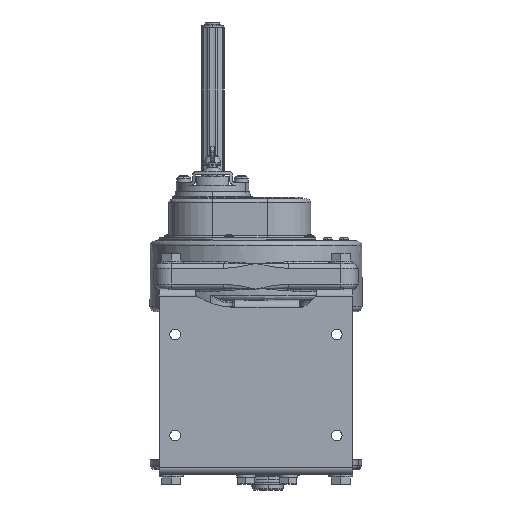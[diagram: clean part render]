
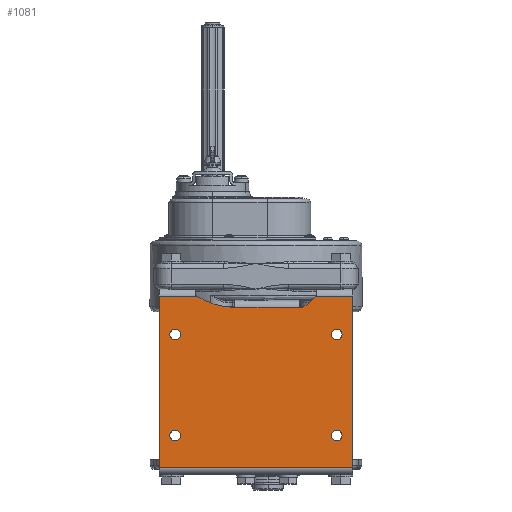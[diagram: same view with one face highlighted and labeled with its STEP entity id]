
A CAD part, front view. The second image highlights one B-rep face of the part: STEP entity #1081.
In plain terms, the highlighted planar face has unit normal (0, -1, 0).
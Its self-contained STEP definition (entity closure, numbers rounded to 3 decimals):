
#1081=ADVANCED_FACE('',(#12439,#12440,#12441,#12442,#12443),#12438,.T.);
#12438=PLANE('',#37628);
#12439=FACE_OUTER_BOUND('',#37629,.T.);
#12440=FACE_BOUND('',#37630,.T.);
#12441=FACE_BOUND('',#37631,.T.);
#12442=FACE_BOUND('',#37632,.T.);
#12443=FACE_BOUND('',#37633,.T.);
#37625=CARTESIAN_POINT('',(11.,-36.383,-212.1));
#37626=DIRECTION('',(0.,-1.,0.));
#37627=DIRECTION('',(0.,0.,1.));
#37628=AXIS2_PLACEMENT_3D('',#37625,#37626,#37627);
#37629=EDGE_LOOP('',(#53646,#53647,#53648,#53649,#53650,#53651,#53652,#53653,#53654,#53655));
#37630=EDGE_LOOP('',(#53656,#53657));
#37631=EDGE_LOOP('',(#53658,#53659));
#37632=EDGE_LOOP('',(#53660,#53661));
#37633=EDGE_LOOP('',(#53662,#53663));
#53646=ORIENTED_EDGE('',*,*,#62278,.T.);
#53647=ORIENTED_EDGE('',*,*,#62282,.T.);
#53648=ORIENTED_EDGE('',*,*,#65119,.T.);
#53649=ORIENTED_EDGE('',*,*,#62268,.T.);
#53650=ORIENTED_EDGE('',*,*,#65120,.T.);
#53651=ORIENTED_EDGE('',*,*,#65121,.T.);
#53652=ORIENTED_EDGE('',*,*,#65117,.T.);
#53653=ORIENTED_EDGE('',*,*,#65101,.F.);
#53654=ORIENTED_EDGE('',*,*,#65113,.F.);
#53655=ORIENTED_EDGE('',*,*,#64233,.T.);
#53656=ORIENTED_EDGE('',*,*,#65122,.F.);
#53657=ORIENTED_EDGE('',*,*,#65123,.F.);
#53658=ORIENTED_EDGE('',*,*,#65124,.F.);
#53659=ORIENTED_EDGE('',*,*,#65125,.F.);
#53660=ORIENTED_EDGE('',*,*,#65126,.F.);
#53661=ORIENTED_EDGE('',*,*,#65127,.F.);
#53662=ORIENTED_EDGE('',*,*,#65128,.F.);
#53663=ORIENTED_EDGE('',*,*,#65129,.F.);
#62268=EDGE_CURVE('',#70349,#70383,#70390,.T.);
#62278=EDGE_CURVE('',#70460,#70453,#70461,.T.);
#62282=EDGE_CURVE('',#70453,#70481,#70488,.T.);
#64233=EDGE_CURVE('',#83603,#70460,#83604,.T.);
#65101=EDGE_CURVE('',#89368,#89375,#89376,.T.);
#65113=EDGE_CURVE('',#83603,#89368,#89454,.T.);
#65117=EDGE_CURVE('',#89478,#89375,#89479,.T.);
#65119=EDGE_CURVE('',#70481,#70349,#89491,.T.);
#65120=EDGE_CURVE('',#70383,#89497,#89498,.T.);
#65121=EDGE_CURVE('',#89497,#89478,#89504,.T.);
#65122=EDGE_CURVE('',#89510,#89511,#89512,.T.);
#65123=EDGE_CURVE('',#89511,#89510,#89518,.T.);
#65124=EDGE_CURVE('',#89524,#89525,#89526,.T.);
#65125=EDGE_CURVE('',#89525,#89524,#89532,.T.);
#65126=EDGE_CURVE('',#89538,#89539,#89540,.T.);
#65127=EDGE_CURVE('',#89539,#89538,#89546,.T.);
#65128=EDGE_CURVE('',#89552,#89553,#89554,.T.);
#65129=EDGE_CURVE('',#89553,#89552,#89560,.T.);
#70349=VERTEX_POINT('',#113328);
#70383=VERTEX_POINT('',#113362);
#70390=LINE('',#113379,#113380);
#70453=VERTEX_POINT('',#113441);
#70460=VERTEX_POINT('',#113446);
#70461=LINE('',#113447,#113448);
#70481=VERTEX_POINT('',#113460);
#70488=CIRCLE('',#113467,30.);
#83603=VERTEX_POINT('',#123397);
#83604=LINE('',#123398,#123399);
#89368=VERTEX_POINT('',#127419);
#89375=VERTEX_POINT('',#127424);
#89376=LINE('',#127425,#127426);
#89454=LINE('',#127470,#127471);
#89478=VERTEX_POINT('',#127483);
#89479=LINE('',#127484,#127485);
#89491=CIRCLE('',#127494,2.);
#89497=VERTEX_POINT('',#127495);
#89498=CIRCLE('',#127499,2.);
#89504=CIRCLE('',#127503,70.);
#89510=VERTEX_POINT('',#127504);
#89511=VERTEX_POINT('',#127505);
#89512=CIRCLE('',#127509,5.25);
#89518=CIRCLE('',#127513,5.25);
#89524=VERTEX_POINT('',#127514);
#89525=VERTEX_POINT('',#127515);
#89526=CIRCLE('',#127519,5.25);
#89532=CIRCLE('',#127523,5.25);
#89538=VERTEX_POINT('',#127524);
#89539=VERTEX_POINT('',#127525);
#89540=CIRCLE('',#127529,5.25);
#89546=CIRCLE('',#127533,5.25);
#89552=VERTEX_POINT('',#127534);
#89553=VERTEX_POINT('',#127535);
#89554=CIRCLE('',#127539,5.25);
#89560=CIRCLE('',#127543,5.25);
#113328=CARTESIAN_POINT('',(-50.,-36.383,-43.4));
#113362=CARTESIAN_POINT('',(-118.,-36.383,-43.4));
#113379=CARTESIAN_POINT('',(-50.,-36.383,-43.4));
#113380=VECTOR('',#113381,68.);
#113381=DIRECTION('',(-1.,0.,0.));
#113441=CARTESIAN_POINT('',(-35.917,-36.383,-32.4));
#113446=CARTESIAN_POINT('',(1.,-36.383,-32.4));
#113447=CARTESIAN_POINT('',(1.,-36.383,-32.4));
#113448=VECTOR('',#113449,36.917);
#113449=DIRECTION('',(-1.,0.,0.));
#113460=CARTESIAN_POINT('',(-49.234,-36.383,-43.247));
#113464=CARTESIAN_POINT('',(-60.73,-36.383,-15.537));
#113465=DIRECTION('',(0.,1.,0.));
#113466=DIRECTION('',(0.,0.,-1.));
#113467=AXIS2_PLACEMENT_3D('',#113464,#113465,#113466);
#123397=CARTESIAN_POINT('',(1.,-36.383,-202.1));
#123398=CARTESIAN_POINT('',(1.,-36.383,-202.1));
#123399=VECTOR('',#123400,169.7);
#123400=DIRECTION('',(0.,0.,1.));
#127419=CARTESIAN_POINT('',(-191.,-36.383,-202.1));
#127424=CARTESIAN_POINT('',(-191.,-36.383,-32.4));
#127425=CARTESIAN_POINT('',(-191.,-36.383,-202.1));
#127426=VECTOR('',#127427,169.7);
#127427=DIRECTION('',(0.,0.,1.));
#127470=CARTESIAN_POINT('',(1.,-36.383,-202.1));
#127471=VECTOR('',#127472,192.);
#127472=DIRECTION('',(-1.,0.,0.));
#127483=CARTESIAN_POINT('',(-153.59,-36.383,-32.4));
#127484=CARTESIAN_POINT('',(-153.59,-36.383,-32.4));
#127485=VECTOR('',#127486,37.41);
#127486=DIRECTION('',(-1.,0.,0.));
#127491=CARTESIAN_POINT('',(-50.,-36.383,-41.4));
#127492=DIRECTION('',(0.,1.,0.));
#127493=DIRECTION('',(0.,0.,-1.));
#127494=AXIS2_PLACEMENT_3D('',#127491,#127492,#127493);
#127495=CARTESIAN_POINT('',(-118.063,-36.383,-43.399));
#127496=CARTESIAN_POINT('',(-118.,-36.383,-41.4));
#127497=DIRECTION('',(0.,1.,0.));
#127498=DIRECTION('',(0.,0.,-1.));
#127499=AXIS2_PLACEMENT_3D('',#127496,#127497,#127498);
#127500=CARTESIAN_POINT('',(-115.868,-36.383,26.567));
#127501=DIRECTION('',(0.,1.,0.));
#127502=DIRECTION('',(0.,0.,-1.));
#127503=AXIS2_PLACEMENT_3D('',#127500,#127501,#127502);
#127504=CARTESIAN_POINT('',(-15.,-36.383,-75.65));
#127505=CARTESIAN_POINT('',(-15.,-36.383,-65.15));
#127506=CARTESIAN_POINT('',(-15.,-36.383,-70.4));
#127507=DIRECTION('',(0.,-1.,0.));
#127508=DIRECTION('',(0.,0.,1.));
#127509=AXIS2_PLACEMENT_3D('',#127506,#127507,#127508);
#127510=CARTESIAN_POINT('',(-15.,-36.383,-70.4));
#127511=DIRECTION('',(0.,-1.,0.));
#127512=DIRECTION('',(0.,0.,1.));
#127513=AXIS2_PLACEMENT_3D('',#127510,#127511,#127512);
#127514=CARTESIAN_POINT('',(-175.,-36.383,-75.65));
#127515=CARTESIAN_POINT('',(-175.,-36.383,-65.15));
#127516=CARTESIAN_POINT('',(-175.,-36.383,-70.4));
#127517=DIRECTION('',(0.,-1.,0.));
#127518=DIRECTION('',(0.,0.,1.));
#127519=AXIS2_PLACEMENT_3D('',#127516,#127517,#127518);
#127520=CARTESIAN_POINT('',(-175.,-36.383,-70.4));
#127521=DIRECTION('',(0.,-1.,0.));
#127522=DIRECTION('',(0.,0.,1.));
#127523=AXIS2_PLACEMENT_3D('',#127520,#127521,#127522);
#127524=CARTESIAN_POINT('',(-175.,-36.383,-175.65));
#127525=CARTESIAN_POINT('',(-175.,-36.383,-165.15));
#127526=CARTESIAN_POINT('',(-175.,-36.383,-170.4));
#127527=DIRECTION('',(0.,-1.,0.));
#127528=DIRECTION('',(0.,0.,1.));
#127529=AXIS2_PLACEMENT_3D('',#127526,#127527,#127528);
#127530=CARTESIAN_POINT('',(-175.,-36.383,-170.4));
#127531=DIRECTION('',(0.,-1.,0.));
#127532=DIRECTION('',(0.,0.,1.));
#127533=AXIS2_PLACEMENT_3D('',#127530,#127531,#127532);
#127534=CARTESIAN_POINT('',(-15.,-36.383,-175.65));
#127535=CARTESIAN_POINT('',(-15.,-36.383,-165.15));
#127536=CARTESIAN_POINT('',(-15.,-36.383,-170.4));
#127537=DIRECTION('',(0.,-1.,0.));
#127538=DIRECTION('',(0.,0.,1.));
#127539=AXIS2_PLACEMENT_3D('',#127536,#127537,#127538);
#127540=CARTESIAN_POINT('',(-15.,-36.383,-170.4));
#127541=DIRECTION('',(0.,-1.,0.));
#127542=DIRECTION('',(0.,0.,1.));
#127543=AXIS2_PLACEMENT_3D('',#127540,#127541,#127542);
